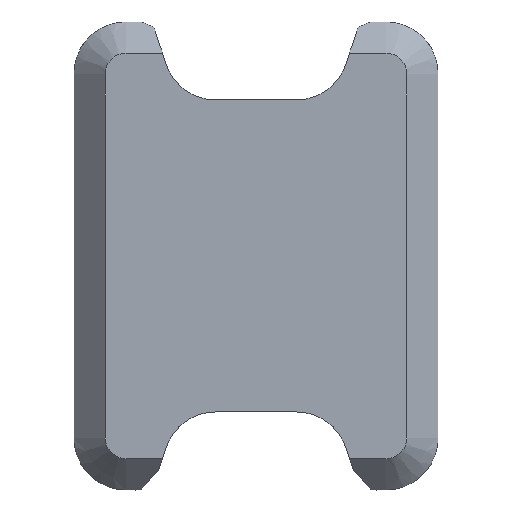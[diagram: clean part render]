
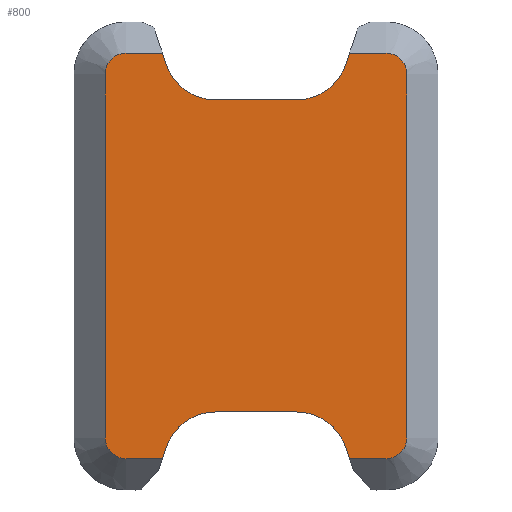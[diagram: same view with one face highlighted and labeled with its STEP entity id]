
A CAD part, top view. The second image highlights one B-rep face of the part: STEP entity #800.
In plain terms, the highlighted planar face has unit normal (0, 0, 1).
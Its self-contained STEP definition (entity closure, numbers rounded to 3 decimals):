
#40=CIRCLE('',#873,2.);
#41=CIRCLE('',#876,2.);
#43=CIRCLE('',#882,0.8);
#45=CIRCLE('',#886,0.8);
#46=CIRCLE('',#888,0.8);
#47=CIRCLE('',#889,0.8);
#48=CIRCLE('',#890,2.);
#49=CIRCLE('',#891,2.);
#88=FACE_OUTER_BOUND('',#134,.T.);
#134=EDGE_LOOP('',(#657,#658,#659,#660,#661,#662,#663,#664,#665,#666,#667,
#668,#669,#670,#671,#672,#673,#674,#675,#676));
#189=LINE('',#1271,#271);
#198=LINE('',#1289,#280);
#202=LINE('',#1296,#284);
#205=LINE('',#1304,#287);
#208=LINE('',#1312,#290);
#211=LINE('',#1318,#293);
#214=LINE('',#1325,#296);
#218=LINE('',#1337,#300);
#220=LINE('',#1346,#302);
#221=LINE('',#1349,#303);
#222=LINE('',#1353,#304);
#223=LINE('',#1356,#305);
#271=VECTOR('',#1019,10.);
#280=VECTOR('',#1034,10.);
#284=VECTOR('',#1040,10.);
#287=VECTOR('',#1049,10.);
#290=VECTOR('',#1058,10.);
#293=VECTOR('',#1063,10.);
#296=VECTOR('',#1068,10.);
#300=VECTOR('',#1080,10.);
#302=VECTOR('',#1092,10.);
#303=VECTOR('',#1095,10.);
#304=VECTOR('',#1098,10.);
#305=VECTOR('',#1101,10.);
#363=VERTEX_POINT('',#1268);
#364=VERTEX_POINT('',#1270);
#369=VERTEX_POINT('',#1286);
#370=VERTEX_POINT('',#1288);
#372=VERTEX_POINT('',#1294);
#373=VERTEX_POINT('',#1298);
#374=VERTEX_POINT('',#1302);
#375=VERTEX_POINT('',#1306);
#376=VERTEX_POINT('',#1310);
#378=VERTEX_POINT('',#1316);
#380=VERTEX_POINT('',#1322);
#381=VERTEX_POINT('',#1324);
#383=VERTEX_POINT('',#1330);
#385=VERTEX_POINT('',#1335);
#386=VERTEX_POINT('',#1343);
#387=VERTEX_POINT('',#1345);
#388=VERTEX_POINT('',#1348);
#389=VERTEX_POINT('',#1350);
#390=VERTEX_POINT('',#1352);
#391=VERTEX_POINT('',#1354);
#450=EDGE_CURVE('',#363,#364,#189,.T.);
#459=EDGE_CURVE('',#369,#370,#198,.T.);
#463=EDGE_CURVE('',#369,#372,#202,.T.);
#465=EDGE_CURVE('',#372,#373,#40,.T.);
#467=EDGE_CURVE('',#373,#374,#205,.T.);
#469=EDGE_CURVE('',#374,#375,#41,.T.);
#471=EDGE_CURVE('',#375,#376,#208,.T.);
#474=EDGE_CURVE('',#378,#376,#211,.T.);
#477=EDGE_CURVE('',#380,#381,#214,.T.);
#481=EDGE_CURVE('',#383,#380,#43,.T.);
#483=EDGE_CURVE('',#385,#383,#218,.T.);
#486=EDGE_CURVE('',#370,#385,#45,.T.);
#487=EDGE_CURVE('',#386,#378,#46,.T.);
#488=EDGE_CURVE('',#387,#386,#220,.T.);
#489=EDGE_CURVE('',#364,#387,#47,.T.);
#490=EDGE_CURVE('',#363,#388,#221,.T.);
#491=EDGE_CURVE('',#388,#389,#48,.T.);
#492=EDGE_CURVE('',#389,#390,#222,.T.);
#493=EDGE_CURVE('',#390,#391,#49,.T.);
#494=EDGE_CURVE('',#391,#381,#223,.T.);
#657=ORIENTED_EDGE('',*,*,#477,.F.);
#658=ORIENTED_EDGE('',*,*,#481,.F.);
#659=ORIENTED_EDGE('',*,*,#483,.F.);
#660=ORIENTED_EDGE('',*,*,#486,.F.);
#661=ORIENTED_EDGE('',*,*,#459,.F.);
#662=ORIENTED_EDGE('',*,*,#463,.T.);
#663=ORIENTED_EDGE('',*,*,#465,.T.);
#664=ORIENTED_EDGE('',*,*,#467,.T.);
#665=ORIENTED_EDGE('',*,*,#469,.T.);
#666=ORIENTED_EDGE('',*,*,#471,.T.);
#667=ORIENTED_EDGE('',*,*,#474,.F.);
#668=ORIENTED_EDGE('',*,*,#487,.F.);
#669=ORIENTED_EDGE('',*,*,#488,.F.);
#670=ORIENTED_EDGE('',*,*,#489,.F.);
#671=ORIENTED_EDGE('',*,*,#450,.F.);
#672=ORIENTED_EDGE('',*,*,#490,.T.);
#673=ORIENTED_EDGE('',*,*,#491,.T.);
#674=ORIENTED_EDGE('',*,*,#492,.T.);
#675=ORIENTED_EDGE('',*,*,#493,.T.);
#676=ORIENTED_EDGE('',*,*,#494,.T.);
#761=PLANE('',#887);
#800=ADVANCED_FACE('',(#88),#761,.T.);
#873=AXIS2_PLACEMENT_3D('',#1300,#1044,#1045);
#876=AXIS2_PLACEMENT_3D('',#1308,#1053,#1054);
#882=AXIS2_PLACEMENT_3D('',#1332,#1075,#1076);
#886=AXIS2_PLACEMENT_3D('',#1341,#1086,#1087);
#887=AXIS2_PLACEMENT_3D('',#1342,#1088,#1089);
#888=AXIS2_PLACEMENT_3D('',#1344,#1090,#1091);
#889=AXIS2_PLACEMENT_3D('',#1347,#1093,#1094);
#890=AXIS2_PLACEMENT_3D('',#1351,#1096,#1097);
#891=AXIS2_PLACEMENT_3D('',#1355,#1099,#1100);
#1019=DIRECTION('',(1.,0.,0.));
#1034=DIRECTION('',(-1.,0.,0.));
#1040=DIRECTION('',(0.316,0.949,0.));
#1044=DIRECTION('center_axis',(0.,0.,-1.));
#1045=DIRECTION('ref_axis',(0.,1.,0.));
#1049=DIRECTION('',(1.,0.,0.));
#1053=DIRECTION('center_axis',(0.,0.,-1.));
#1054=DIRECTION('ref_axis',(0.949,0.316,0.));
#1058=DIRECTION('',(0.316,-0.949,0.));
#1063=DIRECTION('',(-1.,0.,0.));
#1068=DIRECTION('',(1.,0.,0.));
#1075=DIRECTION('center_axis',(0.,0.,-1.));
#1076=DIRECTION('ref_axis',(-0.707,0.707,0.));
#1080=DIRECTION('',(0.,1.,0.));
#1086=DIRECTION('center_axis',(0.,0.,-1.));
#1087=DIRECTION('ref_axis',(-0.707,-0.707,0.));
#1088=DIRECTION('center_axis',(0.,0.,1.));
#1089=DIRECTION('ref_axis',(1.,0.,0.));
#1090=DIRECTION('center_axis',(0.,0.,-1.));
#1091=DIRECTION('ref_axis',(0.707,-0.707,0.));
#1092=DIRECTION('',(0.,-1.,0.));
#1093=DIRECTION('center_axis',(0.,0.,-1.));
#1094=DIRECTION('ref_axis',(0.707,0.707,0.));
#1095=DIRECTION('',(-0.316,-0.949,0.));
#1096=DIRECTION('center_axis',(0.,0.,-1.));
#1097=DIRECTION('ref_axis',(0.,-1.,0.));
#1098=DIRECTION('',(-1.,0.,0.));
#1099=DIRECTION('center_axis',(0.,0.,-1.));
#1100=DIRECTION('ref_axis',(-0.949,-0.316,0.));
#1101=DIRECTION('',(-0.316,0.949,0.));
#1268=CARTESIAN_POINT('',(3.6,7.8,1.6));
#1270=CARTESIAN_POINT('',(5.,7.8,1.6));
#1271=CARTESIAN_POINT('',(3.5,7.8,1.6));
#1286=CARTESIAN_POINT('',(-3.6,-7.8,1.6));
#1288=CARTESIAN_POINT('',(-5.,-7.8,1.6));
#1289=CARTESIAN_POINT('',(-3.5,-7.8,1.6));
#1294=CARTESIAN_POINT('',(-3.456,-7.368,1.6));
#1296=CARTESIAN_POINT('',(-3.456,-7.368,1.6));
#1298=CARTESIAN_POINT('',(-1.558,-6.,1.6));
#1300=CARTESIAN_POINT('Origin',(-1.558,-8.,1.6));
#1302=CARTESIAN_POINT('',(1.558,-6.,1.6));
#1304=CARTESIAN_POINT('',(-1.558,-6.,1.6));
#1306=CARTESIAN_POINT('',(3.456,-7.368,1.6));
#1308=CARTESIAN_POINT('Origin',(1.558,-8.,1.6));
#1310=CARTESIAN_POINT('',(3.6,-7.8,1.6));
#1312=CARTESIAN_POINT('',(3.456,-7.368,1.6));
#1316=CARTESIAN_POINT('',(5.,-7.8,1.6));
#1318=CARTESIAN_POINT('',(2.,-7.8,1.6));
#1322=CARTESIAN_POINT('',(-5.,7.8,1.6));
#1324=CARTESIAN_POINT('',(-3.6,7.8,1.6));
#1325=CARTESIAN_POINT('',(-2.,7.8,1.6));
#1330=CARTESIAN_POINT('',(-5.8,7.,1.6));
#1332=CARTESIAN_POINT('Origin',(-5.,7.,1.6));
#1335=CARTESIAN_POINT('',(-5.8,-7.,1.6));
#1337=CARTESIAN_POINT('',(-5.8,4.5,1.6));
#1341=CARTESIAN_POINT('Origin',(-5.,-7.,1.6));
#1342=CARTESIAN_POINT('Origin',(0.,0.,1.6));
#1343=CARTESIAN_POINT('',(5.8,-7.,1.6));
#1344=CARTESIAN_POINT('Origin',(5.,-7.,1.6));
#1345=CARTESIAN_POINT('',(5.8,7.,1.6));
#1346=CARTESIAN_POINT('',(5.8,-4.5,1.6));
#1347=CARTESIAN_POINT('Origin',(5.,7.,1.6));
#1348=CARTESIAN_POINT('',(3.456,7.368,1.6));
#1349=CARTESIAN_POINT('',(3.456,7.368,1.6));
#1350=CARTESIAN_POINT('',(1.558,6.,1.6));
#1351=CARTESIAN_POINT('Origin',(1.558,8.,1.6));
#1352=CARTESIAN_POINT('',(-1.558,6.,1.6));
#1353=CARTESIAN_POINT('',(-1.558,6.,1.6));
#1354=CARTESIAN_POINT('',(-3.456,7.368,1.6));
#1355=CARTESIAN_POINT('Origin',(-1.558,8.,1.6));
#1356=CARTESIAN_POINT('',(-4.,9.,1.6));
